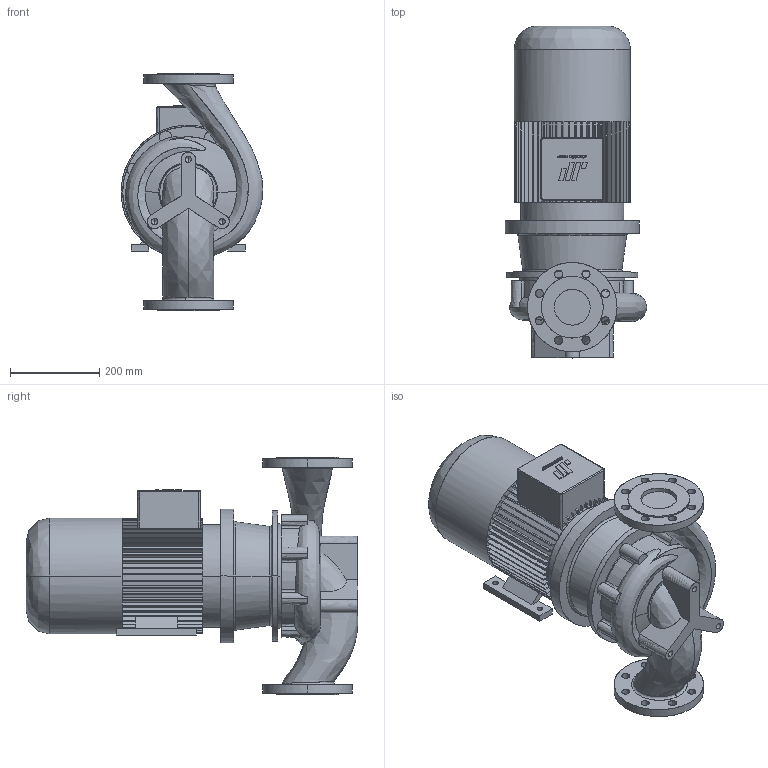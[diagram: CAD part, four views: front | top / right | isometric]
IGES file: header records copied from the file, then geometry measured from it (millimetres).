
Start section: CombiLine
Global section: file name: CLB_80-200_IEC132S_ND10.igs; native system:  By UGS Corp.; preprocessor: XPlus GENERIC/IGES 3.0; author: Stageplaats; organization: Johnson Pump Water B.V.; date: 20070717.093527; units: millimetre
Bounding box: 316.6 x 742 x 530 mm (x, y, z)
Surface area: 1349261.6 mm2 (no closed solid volume)
Topology: 0 solids, 0 shells, 597 faces, 3626 edges, 3620 vertices
Faces by surface type: bspline 597
